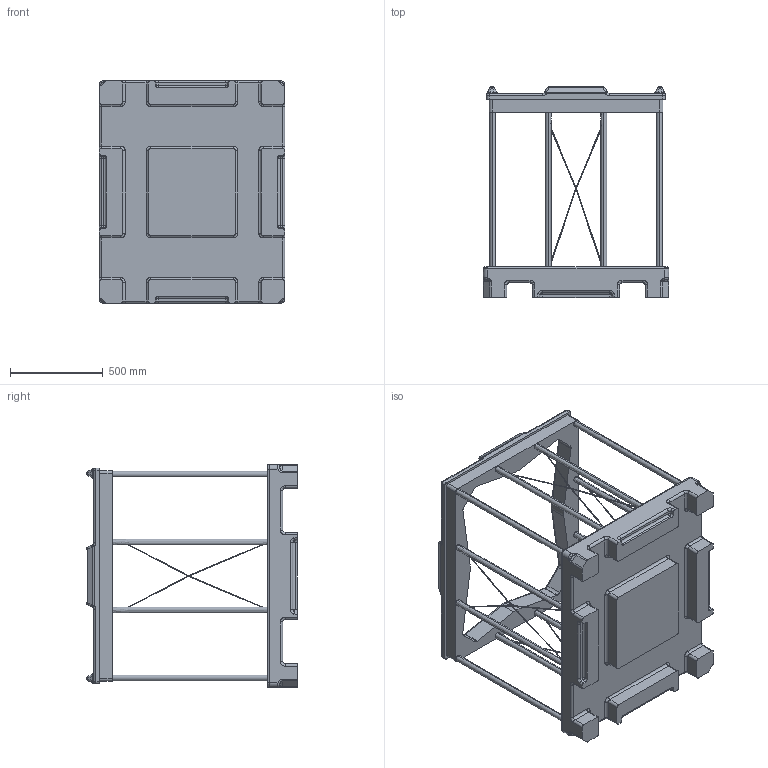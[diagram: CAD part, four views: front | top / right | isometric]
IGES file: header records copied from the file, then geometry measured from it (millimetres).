
Start section: SolidWorks IGES file using analytic representation for surfaces
Global section: file name: C:\Users\bconder\Documents\Production Models\ProBins\Collapsible\Alpal 40\Alpal 40 Block Model.IGS; native system: SolidWorks 2013; preprocessor: SolidWorks 2013; author: bconder; date: 130603.112041; units: inch
Bounding box: 1000.12 x 1136.1 x 1200.15 mm (x, y, z)
Surface area: 6283714.4 mm2 (no closed solid volume)
Topology: 0 solids, 0 shells, 488 faces, 6161 edges, 6146 vertices
Faces by surface type: revolution 285, bspline 203
